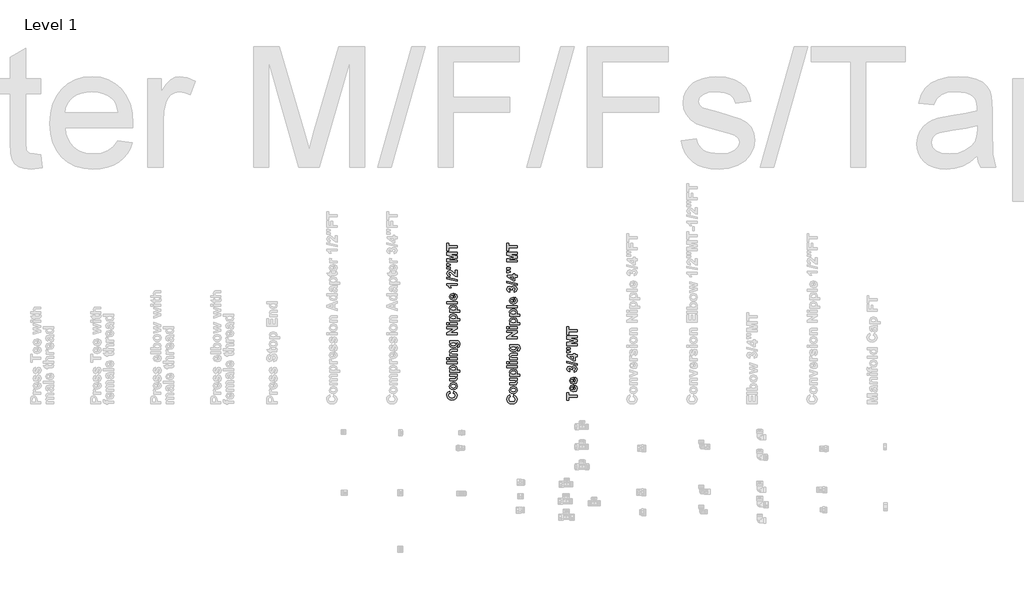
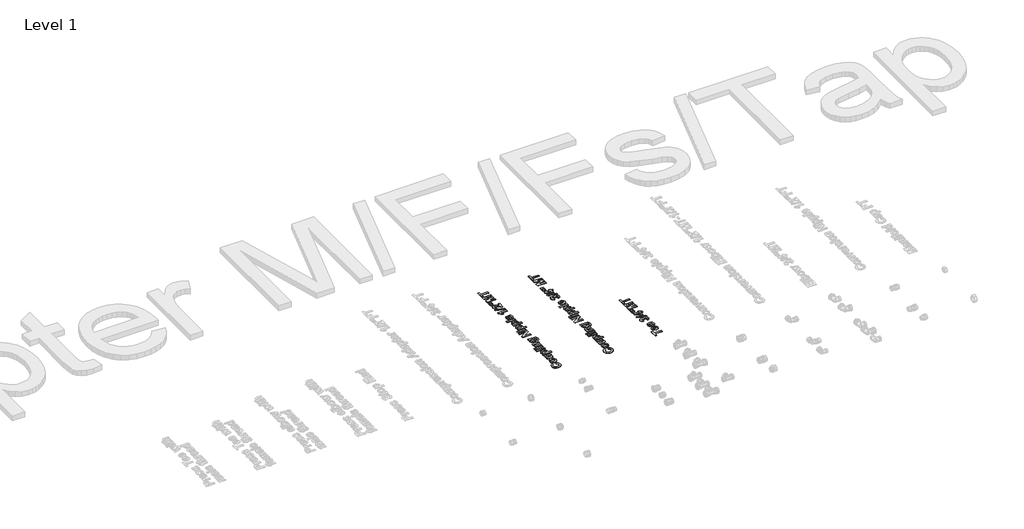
# One storey, part 55 of 58: 3 proxies.
"""IFC4 building model written with IfcOpenShell, lengths in millimetres."""

import ifcopenshell
import ifcopenshell.guid

model = None  # the IFC model being written
_history = None  # IfcOwnerHistory: only IFC2X3 demands one
_inside = {}  # id of a spatial element -> (the spatial element, [elements in it])
_under = {}  # id of a project, library or spatial element -> (it, [spatial elements below it])
_declared = {}  # id of a project -> (the project, [libraries it declares])
_typed = {}  # id of a type object -> (the type object, [elements of that type])
_made_of = {}  # id of a material, layer set ... -> (it, [elements and type objects made of it])


def new_model(schema):
    """Start an empty IFC model of exactly this schema.

    Asked for "IFC4X3", IfcOpenShell would pick the latest addendum, in which some entities
    have other attributes; the version numbers below select the first issue.
    IFC2X3 requires an IfcOwnerHistory on every rooted entity: one is made here for all.
    """
    global model, _history
    if schema == "IFC4X3":
        model = ifcopenshell.file(schema_version=(4, 3, 0, 0))
    else:
        model = ifcopenshell.file(schema=schema)
    _inside.clear()
    _under.clear()
    _declared.clear()
    _typed.clear()
    _made_of.clear()
    _history = None
    if model.schema == "IFC2X3":
        org = make("IfcOrganization", Name="unknown")
        user = make(
            "IfcPersonAndOrganization",
            ThePerson=make("IfcPerson", FamilyName="unknown"),
            TheOrganization=org,
        )
        app = make(
            "IfcApplication",
            ApplicationDeveloper=org,
            Version="unknown",
            ApplicationFullName="unknown",
            ApplicationIdentifier="unknown",
        )
        _history = make(
            "IfcOwnerHistory",
            OwningUser=user,
            OwningApplication=app,
            ChangeAction="ADDED",
            CreationDate=0,
        )
    return model


def make(cls, **values):
    """One entity of the class cls with the attributes given. An attribute that is None is left unset."""
    return model.create_entity(
        cls, **{name: value for name, value in values.items() if value is not None}
    )


def rooted(cls, **values):
    """An entity with a GlobalId (a new one), such as an element, a storey or a relation."""
    return make(cls, GlobalId=ifcopenshell.guid.new(), OwnerHistory=_history, **values)


def si_unit(unit_type, name, prefix=None):
    """IfcSIUnit, for example si_unit("LENGTHUNIT", "METRE", prefix="MILLI")."""
    return make("IfcSIUnit", UnitType=unit_type, Prefix=prefix, Name=name)


def assignment(units):
    """IfcUnitAssignment: the units of a project."""
    return None if units is None else make("IfcUnitAssignment", Units=units)


def point(xyz):
    """IfcCartesianPoint."""
    return None if xyz is None else make("IfcCartesianPoint", Coordinates=xyz)


def direction(xyz):
    """IfcDirection."""
    return None if xyz is None else make("IfcDirection", DirectionRatios=xyz)


def frame(location, z_axis=None, x_axis=None):
    """IfcAxis2Placement3D, a coordinate frame: its origin and axes. An axis left out is left unset."""
    return make(
        "IfcAxis2Placement3D",
        Location=point(location),
        Axis=direction(z_axis),
        RefDirection=direction(x_axis),
    )


def origin():
    """The frame at (0, 0, 0) with its axes left unset."""
    return frame((0.0, 0.0, 0.0))


def place(relative_to, where):
    """IfcLocalPlacement: puts the frame where relative to a parent placement (None: the world)."""
    return make(
        "IfcLocalPlacement", PlacementRelTo=relative_to, RelativePlacement=where
    )


def context(
    kind, dimensions, precision=None, world=None, true_north=None, identifier=None
):
    """IfcGeometricRepresentationContext, for example the 3D "Model" context."""
    return make(
        "IfcGeometricRepresentationContext",
        ContextIdentifier=identifier,
        ContextType=kind,
        CoordinateSpaceDimension=dimensions,
        Precision=precision,
        WorldCoordinateSystem=world,
        TrueNorth=true_north,
    )


def project(units=None, contexts=None):
    """IfcProject with its units and contexts."""
    return rooted(
        "IfcProject",
        Name="project",
        RepresentationContexts=contexts,
        UnitsInContext=assignment(units),
    )


def spatial(cls, under=None, at=None, **own):
    """A site, building, storey or space (cls), placed at a placement, below another one or the project."""
    s = rooted(cls, ObjectPlacement=at, **own)
    if under is not None:
        _under.setdefault(under.id(), (under, []))[1].append(s)
    return s


def polyline(points):
    """IfcPolyline through the points."""
    return make("IfcPolyline", Points=[point(p) for p in points])


def outline(outer, holes=None, kind="AREA"):
    """IfcArbitraryClosedProfileDef: a profile drawn as a closed curve; with holes, ...WithVoids."""
    if holes is None:
        return make("IfcArbitraryClosedProfileDef", ProfileType=kind, OuterCurve=outer)
    return make(
        "IfcArbitraryProfileDefWithVoids",
        ProfileType=kind,
        OuterCurve=outer,
        InnerCurves=holes,
    )


def extrude(swept, where, along, depth):
    """IfcExtrudedAreaSolid: the profile swept, set in the frame where, extruded along a direction by depth."""
    return make(
        "IfcExtrudedAreaSolid",
        SweptArea=swept,
        Position=where,
        ExtrudedDirection=direction(along),
        Depth=depth,
    )


def shape(context_of_items, identifier, shape_type, items):
    """IfcShapeRepresentation: the items that make up one representation, for example the "Body"."""
    return make(
        "IfcShapeRepresentation",
        ContextOfItems=context_of_items,
        RepresentationIdentifier=identifier,
        RepresentationType=shape_type,
        Items=items,
    )


def made_of(thing, what):
    """Note that an element or type object is made of a material, layer set ...; save() writes the relation."""
    if what is not None:
        _made_of.setdefault(what.id(), (what, []))[1].append(thing)
    return thing


def element(
    cls,
    number,
    at=None,
    inside=None,
    cuts=None,
    type_object=None,
    material=None,
    context=None,
    identifier="Body",
    shape_type=None,
    held_by="IfcProductDefinitionShape",
    body=None,
    shapes=None,
    **own,
):
    """One element of the class cls, such as IfcWall. Its Tag is "e" and its number.

    at: its placement. inside: the storey or other place that contains it. cuts: it is an
    opening in that element (IfcRelVoidsElement). A single representation is given by context,
    identifier, shape_type and body (its items); several are given by shapes. held_by: the class
    of the entity that holds the representations. save() writes the other relations.
    """
    e = rooted(cls, Tag="e%d" % number, ObjectPlacement=at, **own)
    if body is not None:
        shapes = [shape(context, identifier, shape_type, body)]
    if shapes is not None:
        e.Representation = make(held_by, Representations=shapes)
    if inside is not None:
        _inside.setdefault(inside.id(), (inside, []))[1].append(e)
    if cuts is not None:
        rooted(
            "IfcRelVoidsElement", RelatingBuildingElement=cuts, RelatedOpeningElement=e
        )
    if type_object is not None:
        _typed.setdefault(type_object.id(), (type_object, []))[1].append(e)
    return made_of(e, material)


def aggregate(whole, parts):
    """IfcRelAggregates: a whole, such as a stair, and the parts it consists of."""
    return rooted("IfcRelAggregates", RelatingObject=whole, RelatedObjects=parts)


def save(model, path):
    """Write the relations noted so far, then the file.

    IfcRelAggregates (storeys below a building ...), IfcRelContainedInSpatialStructure (elements
    in a storey), IfcRelDefinesByType, IfcRelAssociatesMaterial and IfcRelDeclares: one each for
    every whole, place, type object, material and project.
    """
    for whole, parts in _under.values():
        aggregate(whole, parts)
    for where, things in _inside.values():
        rooted(
            "IfcRelContainedInSpatialStructure",
            RelatedElements=things,
            RelatingStructure=where,
        )
    for kind, things in _typed.values():
        rooted("IfcRelDefinesByType", RelatedObjects=things, RelatingType=kind)
    for what, things in _made_of.values():
        rooted("IfcRelAssociatesMaterial", RelatedObjects=things, RelatingMaterial=what)
    for by, libraries in _declared.values():
        rooted("IfcRelDeclares", RelatingContext=by, RelatedDefinitions=libraries)
    model.write(path)


model = new_model("IFC4")

# Units and contexts
model_context = context("Model", 3, world=origin())
ifc_project = project(units=[si_unit("LENGTHUNIT", "METRE", prefix="MILLI")], contexts=[model_context])

# Site, building, storey
site = spatial("IfcSite", under=ifc_project)
building = spatial("IfcBuilding", under=site)
storey = spatial("IfcBuildingStorey", under=building, Name="Level 1", Elevation=27.3876384)

# Proxies
placement = place(None, origin())
element("IfcBuildingElementProxy", 1, Name="50mm Arial", ObjectType="50mm Arial", at=placement, inside=storey, context=model_context, shape_type="SweptSolid", body=[
    extrude(outline(polyline([(32999.7082138, 30458.8083975), (33002.9471325, 30468.5251537), (33015.1500119, 30460.8706778), (33019.1417262, 30447.2824016), (33017.4368656, 30438.0053033), (33012.322284, 30430.5437708), (33004.2502912, 30425.6284586), (32993.6731973, 30423.9900212), (32982.5583922, 30425.6426921), (32974.2396849, 30430.6007049), (32969.0491911, 30438.2535993), (32967.3190265, 30447.990915), (32968.7455425, 30456.5183807), (32973.0250904, 30463.2745628), (32982.7038905, 30468.5251537), (32984.3233498, 30458.8083975), (32978.3958755, 30454.7787271), (32976.226053, 30447.3203576), (32980.1671592, 30437.4834072), (32992.9267277, 30433.7067773), (33006.2619634, 30437.369539), (33010.2346997, 30446.9028408), (33007.6979684, 30454.3359062), (32999.7082138, 30458.8083975)])), frame((0.0, 0.0, 27.3876384), z_axis=(0.0, 0.0, 1.0), x_axis=(1.0, 0.0, 0.0)), (0.0, 0.0, 1.0), 2.0),
    extrude(outline(polyline([(32999.9865584, 30474.1932615), (32990.5038647, 30476.5908205), (32983.5009681, 30483.3786326), (32981.0844311, 30493.1839529), (32986.5627585, 30506.9050754), (33000.4167273, 30512.2505566), (33014.4035423, 30506.8481413), (33019.9514559, 30493.2598651), (33017.6424611, 30483.587391), (33010.867301, 30476.5908205), (32999.9865584, 30474.1932615)]), holes=[polyline([(33000.5179435, 30483.9100177), (33009.5325122, 30486.5985733), (33012.6638887, 30493.234561), (33009.5325122, 30499.8578968), (33000.4420313, 30502.5338004), (32991.5033747, 30499.8578968), (32988.3719982, 30493.234561), (32991.5033747, 30486.5985733), (33000.5179435, 30483.9100177)])]), frame((0.0, 0.0, 27.3876384), z_axis=(0.0, 0.0, 1.0), x_axis=(1.0, 0.0, 0.0)), (0.0, 0.0, 1.0), 2.0),
    extrude(outline(polyline([(33019.1417262, 30543.0202845), (33013.6760508, 30543.0202845), (33018.2750624, 30537.9404959), (33019.9514559, 30531.2918561), (33018.3066924, 30524.9025828), (33013.6823768, 30520.8033263), (33005.4395817, 30519.5381237), (32981.8941608, 30519.5381237), (32981.8941608, 30529.2548799), (32999.1135686, 30529.2548799), (33008.7986947, 30529.779939), (33011.6200965, 30531.703047), (33012.6638887, 30535.2519403), (33011.2721658, 30539.6485195), (33007.8118366, 30542.305445), (32997.6965416, 30543.0202845), (32981.8941608, 30543.0202845), (32981.8941608, 30552.7370407), (33019.1417262, 30552.7370407), (33019.1417262, 30543.0202845)])), frame((0.0, 0.0, 27.3876384), z_axis=(0.0, 0.0, 1.0), x_axis=(1.0, 0.0, 0.0)), (0.0, 0.0, 1.0), 2.0),
    extrude(outline(polyline([(32981.8941608, 30562.4537969), (32981.8941608, 30572.1705531), (32987.2586199, 30572.1705531), (32982.7924546, 30576.7885427), (32981.0844311, 30583.2537281), (32986.1642197, 30593.7612359), (33000.302859, 30598.0819029), (33014.7894291, 30593.6220636), (33019.9514559, 30582.8109072), (33018.7495134, 30577.3325798), (33014.6249528, 30572.1705531), (33032.9071308, 30572.1705531), (33032.9071308, 30562.4537969), (32981.8941608, 30562.4537969)]), holes=[polyline([(32999.8726901, 30572.1705531), (33009.5388382, 30574.6060681), (33012.6638887, 30580.5461945), (33009.7982048, 30586.1320641), (33000.3914232, 30588.3651467), (32991.3325724, 30586.0688039), (32988.3719982, 30580.3690661), (32991.2756383, 30574.5048519), (32999.8726901, 30572.1705531)])]), frame((0.0, 0.0, 27.3876384), z_axis=(0.0, 0.0, 1.0), x_axis=(1.0, 0.0, 0.0)), (0.0, 0.0, 1.0), 2.0),
    extrude(outline(polyline([(33019.1417262, 30605.36947), (32968.1287562, 30605.36947), (32968.1287562, 30615.0862262), (33019.1417262, 30615.0862262), (33019.1417262, 30605.36947)])), frame((0.0, 0.0, 27.3876384), z_axis=(0.0, 0.0, 1.0), x_axis=(1.0, 0.0, 0.0)), (0.0, 0.0, 1.0), 2.0),
    extrude(outline(polyline([(32977.0357827, 30624.8029824), (32968.1287562, 30624.8029824), (32968.1287562, 30634.5197386), (32977.0357827, 30634.5197386), (32977.0357827, 30624.8029824)])), frame((0.0, 0.0, 27.3876384), z_axis=(0.0, 0.0, 1.0), x_axis=(1.0, 0.0, 0.0)), (0.0, 0.0, 1.0), 2.0),
    extrude(outline(polyline([(33019.1417262, 30624.8029824), (32981.8941608, 30624.8029824), (32981.8941608, 30634.5197386), (33019.1417262, 30634.5197386), (33019.1417262, 30624.8029824)])), frame((0.0, 0.0, 27.3876384), z_axis=(0.0, 0.0, 1.0), x_axis=(1.0, 0.0, 0.0)), (0.0, 0.0, 1.0), 2.0),
    extrude(outline(polyline([(33019.1417262, 30677.4354118), (33019.1417262, 30667.7186556), (32999.9992104, 30667.7186556), (32992.1296501, 30667.1113583), (32989.3588563, 30665.1249902), (32988.3719982, 30661.8228113), (32989.7826992, 30657.3756241), (32993.527699, 30654.6807425), (33002.1500549, 30653.953251), (33019.1417262, 30653.953251), (33019.1417262, 30644.2364948), (32981.8941608, 30644.2364948), (32981.8941608, 30653.953251), (32987.2586199, 30653.953251), (32982.6279783, 30659.1690488), (32981.0844311, 30665.5804631), (32982.2610695, 30671.2232669), (32985.2595998, 30675.0947869), (32989.3904864, 30676.9230047), (32996.0138221, 30677.4354118), (33019.1417262, 30677.4354118)])), frame((0.0, 0.0, 27.3876384), z_axis=(0.0, 0.0, 1.0), x_axis=(1.0, 0.0, 0.0)), (0.0, 0.0, 1.0), 2.0),
    extrude(outline(polyline([(33022.1402564, 30686.3234603), (33023.1903746, 30697.6786538), (33025.5183474, 30698.8805963), (33026.4292933, 30702.9925049), (33025.2779589, 30708.3822681), (33022.7855097, 30710.2041599), (33018.2560843, 30710.6343288), (33012.8283651, 30710.6343288), (33019.1417262, 30699.3866774), (33017.5570599, 30692.949959), (33012.803061, 30688.0125058), (33000.3281631, 30684.7229789), (32986.0250474, 30689.0309939), (32981.0844311, 30699.7535862), (32986.9423193, 30710.6343288), (32981.8941608, 30710.6343288), (32981.8941608, 30720.351085), (33014.9792095, 30720.351085), (33024.7275958, 30719.2946408), (33029.7947323, 30716.3340666), (33032.6730683, 30711.247952), (33033.7168605, 30703.1949373), (33030.604462, 30690.1506982), (33022.1402564, 30686.3234603)]), holes=[polyline([(32999.9612543, 30694.4397351), (33008.9948011, 30696.6854698), (33011.854159, 30702.2333833), (33008.9188889, 30708.1988137), (33000.2269469, 30710.6343288), (32991.2882903, 30708.3000299), (32988.3719982, 30702.3978597), (32991.2313562, 30696.6854698), (32999.9612543, 30694.4397351)])]), frame((0.0, 0.0, 27.3876384), z_axis=(0.0, 0.0, 1.0), x_axis=(1.0, 0.0, 0.0)), (0.0, 0.0, 1.0), 2.0),
    extrude(outline(polyline([(33019.1417262, 30749.5013535), (32968.1287562, 30749.5013535), (32968.1287562, 30759.6862347), (33002.4663555, 30781.0808111), (32968.1287562, 30781.0808111), (32968.1287562, 30790.7975673), (33019.1417262, 30790.7975673), (33019.1417262, 30780.2963855), (32985.3102079, 30759.2181097), (33019.1417262, 30759.2181097), (33019.1417262, 30749.5013535)])), frame((0.0, 0.0, 27.3876384), z_axis=(0.0, 0.0, 1.0), x_axis=(1.0, 0.0, 0.0)), (0.0, 0.0, 1.0), 2.0),
    extrude(outline(polyline([(33019.1417262, 30800.5143235), (32981.8941608, 30800.5143235), (32981.8941608, 30810.2310797), (33019.1417262, 30810.2310797), (33019.1417262, 30800.5143235)])), frame((0.0, 0.0, 27.3876384), z_axis=(0.0, 0.0, 1.0), x_axis=(1.0, 0.0, 0.0)), (0.0, 0.0, 1.0), 2.0),
    extrude(outline(polyline([(32977.0357827, 30800.5143235), (32968.1287562, 30800.5143235), (32968.1287562, 30810.2310797), (32977.0357827, 30810.2310797), (32977.0357827, 30800.5143235)])), frame((0.0, 0.0, 27.3876384), z_axis=(0.0, 0.0, 1.0), x_axis=(1.0, 0.0, 0.0)), (0.0, 0.0, 1.0), 2.0),
    extrude(outline(polyline([(32981.8941608, 30819.9478359), (32981.8941608, 30829.6645921), (32987.2586199, 30829.6645921), (32982.7924546, 30834.2825817), (32981.0844311, 30840.7477671), (32986.1642197, 30851.255275), (33000.302859, 30855.5759419), (33014.7894291, 30851.1161027), (33019.9514559, 30840.3049462), (33018.7495134, 30834.8266188), (33014.6249528, 30829.6645921), (33032.9071308, 30829.6645921), (33032.9071308, 30819.9478359), (32981.8941608, 30819.9478359)]), holes=[polyline([(32999.8726901, 30829.6645921), (33009.5388382, 30832.1001072), (33012.6638887, 30838.0402335), (33009.7982048, 30843.6261031), (33000.3914232, 30845.8591857), (32991.3325724, 30843.562843), (32988.3719982, 30837.8631051), (32991.2756383, 30831.9988909), (32999.8726901, 30829.6645921)])]), frame((0.0, 0.0, 27.3876384), z_axis=(0.0, 0.0, 1.0), x_axis=(1.0, 0.0, 0.0)), (0.0, 0.0, 1.0), 2.0),
    extrude(outline(polyline([(32981.8941608, 30862.8635091), (32981.8941608, 30872.5802653), (32987.2586199, 30872.5802653), (32982.7924546, 30877.1982549), (32981.0844311, 30883.6634403), (32986.1642197, 30894.1709481), (33000.302859, 30898.4916151), (33014.7894291, 30894.0317758), (33019.9514559, 30883.2206194), (33018.7495134, 30877.742292), (33014.6249528, 30872.5802653), (33032.9071308, 30872.5802653), (33032.9071308, 30862.8635091), (32981.8941608, 30862.8635091)]), holes=[polyline([(32999.8726901, 30872.5802653), (33009.5388382, 30875.0157803), (33012.6638887, 30880.9559067), (33009.7982048, 30886.5417763), (33000.3914232, 30888.7748589), (32991.3325724, 30886.4785161), (32988.3719982, 30880.7787783), (32991.2756383, 30874.9145641), (32999.8726901, 30872.5802653)])]), frame((0.0, 0.0, 27.3876384), z_axis=(0.0, 0.0, 1.0), x_axis=(1.0, 0.0, 0.0)), (0.0, 0.0, 1.0), 2.0),
    extrude(outline(polyline([(33019.1417262, 30905.7791822), (32968.1287562, 30905.7791822), (32968.1287562, 30915.4959384), (33019.1417262, 30915.4959384), (33019.1417262, 30905.7791822)])), frame((0.0, 0.0, 27.3876384), z_axis=(0.0, 0.0, 1.0), x_axis=(1.0, 0.0, 0.0)), (0.0, 0.0, 1.0), 2.0),
    extrude(outline(polyline([(33007.8055106, 30946.2656664), (33009.42497, 30955.9824226), (33017.2629003, 30950.1877945), (33019.9514559, 30940.2812579), (33018.3667896, 30932.0922339), (33013.6127907, 30926.351377), (33000.7962881, 30922.7835056), (32986.32237, 30927.5153634), (32981.0844311, 30939.4841803), (32986.4615423, 30952.3006829), (33002.9471325, 30956.7921522), (33002.9471325, 30932.5002618), (33010.1081794, 30934.7902785), (33012.6638887, 30940.2433019), (33011.5125543, 30943.9756496), (33007.8055106, 30946.2656664)]), holes=[polyline([(32997.2790248, 30947.0753961), (32990.643037, 30944.9118996), (32988.3719982, 30939.9016972), (32990.7632312, 30934.6890623), (32997.2790248, 30932.6647381), (32997.2790248, 30947.0753961)])]), frame((0.0, 0.0, 27.3876384), z_axis=(0.0, 0.0, 1.0), x_axis=(1.0, 0.0, 0.0)), (0.0, 0.0, 1.0), 2.0),
    extrude(outline(polyline([(33019.1417262, 31006.1856629), (33019.1417262, 30996.4689067), (32982.6785864, 30996.4689067), (32990.8011873, 30984.3229615), (32981.0844311, 30984.3229615), (32976.3209432, 30992.4329103), (32968.1287562, 30998.4426228), (32968.1287562, 31006.1856629), (33019.1417262, 31006.1856629)])), frame((0.0, 0.0, 27.3876384), z_axis=(0.0, 0.0, 1.0), x_axis=(1.0, 0.0, 0.0)), (0.0, 0.0, 1.0), 2.0),
    extrude(outline(polyline([(33019.1417262, 31017.3447501), (32968.1287562, 31029.4906953), (32968.1287562, 31036.9553908), (33019.1417262, 31024.8094456), (33019.1417262, 31017.3447501)])), frame((0.0, 0.0, 27.3876384), z_axis=(0.0, 0.0, 1.0), x_axis=(1.0, 0.0, 0.0)), (0.0, 0.0, 1.0), 2.0),
    extrude(outline(polyline([(33009.42497, 31072.5834968), (33019.1417262, 31072.5834968), (33019.1417262, 31040.1943095), (33009.6084244, 31043.294056), (32997.6585855, 31053.4789371), (32989.5106806, 31060.9942408), (32983.6654445, 31062.8667407), (32978.7501323, 31061.2915634), (32977.0357827, 31056.9455924), (32978.7248282, 31052.5932953), (32984.3233498, 31050.7207954), (32983.437708, 31041.0040392), (32971.6903016, 31046.2166741), (32968.1287562, 31057.1606768), (32972.1204705, 31068.4715883), (32982.0459851, 31072.5834968), (32988.4732145, 31071.4574665), (32994.8624877, 31067.8895951), (33001.239109, 31061.8482525), (33006.7680445, 31056.300339), (33009.42497, 31054.4784472), (33009.42497, 31072.5834968)])), frame((0.0, 0.0, 27.3876384), z_axis=(0.0, 0.0, 1.0), x_axis=(1.0, 0.0, 0.0)), (0.0, 0.0, 1.0), 2.0),
    extrude(outline(polyline([(32985.9428092, 31096.9386475), (32976.6056138, 31095.255928), (32968.1287562, 31095.255928), (32968.1287562, 31104.9726841), (32976.6056138, 31104.9726841), (32985.9428092, 31103.5177011), (32985.9428092, 31096.9386475)])), frame((0.0, 0.0, 27.3876384), z_axis=(0.0, 0.0, 1.0), x_axis=(1.0, 0.0, 0.0)), (0.0, 0.0, 1.0), 2.0),
    extrude(outline(polyline([(32985.9428092, 31080.7440538), (32976.6056138, 31079.0613343), (32968.1287562, 31079.0613343), (32968.1287562, 31088.7780905), (32976.6056138, 31088.7780905), (32985.9428092, 31087.3231075), (32985.9428092, 31080.7440538)])), frame((0.0, 0.0, 27.3876384), z_axis=(0.0, 0.0, 1.0), x_axis=(1.0, 0.0, 0.0)), (0.0, 0.0, 1.0), 2.0),
    extrude(outline(polyline([(33019.1417262, 31113.8797107), (32968.1287562, 31113.8797107), (32968.1287562, 31130.5297772), (33002.9218285, 31138.576466), (32968.1287562, 31146.6231547), (32968.1287562, 31163.2732213), (33019.1417262, 31163.2732213), (33019.1417262, 31153.5564651), (32978.9841947, 31153.1516003), (33019.1417262, 31144.2698778), (33019.1417262, 31132.8957062), (32978.9841947, 31124.0013317), (33019.1417262, 31123.5964668), (33019.1417262, 31113.8797107)])), frame((0.0, 0.0, 27.3876384), z_axis=(0.0, 0.0, 1.0), x_axis=(1.0, 0.0, 0.0)), (0.0, 0.0, 1.0), 2.0),
    extrude(outline(polyline([(33019.1417262, 31184.326193), (32977.0357827, 31184.326193), (32977.0357827, 31169.7510587), (32968.1287562, 31169.7510587), (32968.1287562, 31208.6180835), (32977.0357827, 31208.6180835), (32977.0357827, 31194.0429492), (33019.1417262, 31194.0429492), (33019.1417262, 31184.326193)])), frame((0.0, 0.0, 27.3876384), z_axis=(0.0, 0.0, 1.0), x_axis=(1.0, 0.0, 0.0)), (0.0, 0.0, 1.0), 2.0),
])
element("IfcBuildingElementProxy", 2, Name="50mm Arial", ObjectType="50mm Arial", at=placement, inside=storey, context=model_context, shape_type="SweptSolid", body=[
    extrude(outline(polyline([(33299.7082138, 30439.3748851), (33302.9471325, 30449.0916413), (33315.1500119, 30441.4371654), (33319.1417262, 30427.8488892), (33317.4368656, 30418.5717909), (33312.322284, 30411.1102584), (33304.2502912, 30406.1949462), (33293.6731973, 30404.5565088), (33282.5583922, 30406.2091797), (33274.2396849, 30411.1671925), (33269.0491911, 30418.8200869), (33267.3190265, 30428.5574026), (33268.7455425, 30437.0848684), (33273.0250904, 30443.8410504), (33282.7038905, 30449.0916413), (33284.3233498, 30439.3748851), (33278.3958755, 30435.3452148), (33276.226053, 30427.8868453), (33280.1671592, 30418.0498948), (33292.9267277, 30414.273265), (33306.2619634, 30417.9360266), (33310.2346997, 30427.4693284), (33307.6979684, 30434.9023938), (33299.7082138, 30439.3748851)])), frame((0.0, 0.0, 27.3876384), z_axis=(0.0, 0.0, 1.0), x_axis=(1.0, 0.0, 0.0)), (0.0, 0.0, 1.0), 2.0),
    extrude(outline(polyline([(33299.9865584, 30454.7597491), (33290.5038647, 30457.1573081), (33283.5009681, 30463.9451202), (33281.0844311, 30473.7504406), (33286.5627585, 30487.4715631), (33300.4167273, 30492.8170442), (33314.4035423, 30487.4146289), (33319.9514559, 30473.8263527), (33317.6424611, 30464.1538786), (33310.867301, 30457.1573081), (33299.9865584, 30454.7597491)]), holes=[polyline([(33300.5179435, 30464.4765053), (33309.5325122, 30467.1650609), (33312.6638887, 30473.8010487), (33309.5325122, 30480.4243844), (33300.4420313, 30483.100288), (33291.5033747, 30480.4243844), (33288.3719982, 30473.8010487), (33291.5033747, 30467.1650609), (33300.5179435, 30464.4765053)])]), frame((0.0, 0.0, 27.3876384), z_axis=(0.0, 0.0, 1.0), x_axis=(1.0, 0.0, 0.0)), (0.0, 0.0, 1.0), 2.0),
    extrude(outline(polyline([(33319.1417262, 30523.5867721), (33313.6760508, 30523.5867721), (33318.2750624, 30518.5069836), (33319.9514559, 30511.8583437), (33318.3066924, 30505.4690705), (33313.6823768, 30501.3698139), (33305.4395817, 30500.1046113), (33281.8941608, 30500.1046113), (33281.8941608, 30509.8213675), (33299.1135686, 30509.8213675), (33308.7986947, 30510.3464266), (33311.6200965, 30512.2695346), (33312.6638887, 30515.818428), (33311.2721658, 30520.2150071), (33307.8118366, 30522.8719326), (33297.6965416, 30523.5867721), (33281.8941608, 30523.5867721), (33281.8941608, 30533.3035283), (33319.1417262, 30533.3035283), (33319.1417262, 30523.5867721)])), frame((0.0, 0.0, 27.3876384), z_axis=(0.0, 0.0, 1.0), x_axis=(1.0, 0.0, 0.0)), (0.0, 0.0, 1.0), 2.0),
    extrude(outline(polyline([(33281.8941608, 30543.0202845), (33281.8941608, 30552.7370407), (33287.2586199, 30552.7370407), (33282.7924546, 30557.3550303), (33281.0844311, 30563.8202157), (33286.1642197, 30574.3277235), (33300.302859, 30578.6483905), (33314.7894291, 30574.1885513), (33319.9514559, 30563.3773948), (33318.7495134, 30557.8990674), (33314.6249528, 30552.7370407), (33332.9071308, 30552.7370407), (33332.9071308, 30543.0202845), (33281.8941608, 30543.0202845)]), holes=[polyline([(33299.8726901, 30552.7370407), (33309.5388382, 30555.1725557), (33312.6638887, 30561.1126821), (33309.7982048, 30566.6985517), (33300.3914232, 30568.9316343), (33291.3325724, 30566.6352916), (33288.3719982, 30560.9355537), (33291.2756383, 30555.0713395), (33299.8726901, 30552.7370407)])]), frame((0.0, 0.0, 27.3876384), z_axis=(0.0, 0.0, 1.0), x_axis=(1.0, 0.0, 0.0)), (0.0, 0.0, 1.0), 2.0),
    extrude(outline(polyline([(33319.1417262, 30585.9359577), (33268.1287562, 30585.9359577), (33268.1287562, 30595.6527138), (33319.1417262, 30595.6527138), (33319.1417262, 30585.9359577)])), frame((0.0, 0.0, 27.3876384), z_axis=(0.0, 0.0, 1.0), x_axis=(1.0, 0.0, 0.0)), (0.0, 0.0, 1.0), 2.0),
    extrude(outline(polyline([(33277.0357827, 30605.36947), (33268.1287562, 30605.36947), (33268.1287562, 30615.0862262), (33277.0357827, 30615.0862262), (33277.0357827, 30605.36947)])), frame((0.0, 0.0, 27.3876384), z_axis=(0.0, 0.0, 1.0), x_axis=(1.0, 0.0, 0.0)), (0.0, 0.0, 1.0), 2.0),
    extrude(outline(polyline([(33319.1417262, 30605.36947), (33281.8941608, 30605.36947), (33281.8941608, 30615.0862262), (33319.1417262, 30615.0862262), (33319.1417262, 30605.36947)])), frame((0.0, 0.0, 27.3876384), z_axis=(0.0, 0.0, 1.0), x_axis=(1.0, 0.0, 0.0)), (0.0, 0.0, 1.0), 2.0),
    extrude(outline(polyline([(33319.1417262, 30658.0018994), (33319.1417262, 30648.2851432), (33299.9992104, 30648.2851432), (33292.1296501, 30647.677846), (33289.3588563, 30645.6914778), (33288.3719982, 30642.389299), (33289.7826992, 30637.9421117), (33293.527699, 30635.2472301), (33302.1500549, 30634.5197386), (33319.1417262, 30634.5197386), (33319.1417262, 30624.8029824), (33281.8941608, 30624.8029824), (33281.8941608, 30634.5197386), (33287.2586199, 30634.5197386), (33282.6279783, 30639.7355364), (33281.0844311, 30646.1469508), (33282.2610695, 30651.7897545), (33285.2595998, 30655.6612745), (33289.3904864, 30657.4894923), (33296.0138221, 30658.0018994), (33319.1417262, 30658.0018994)])), frame((0.0, 0.0, 27.3876384), z_axis=(0.0, 0.0, 1.0), x_axis=(1.0, 0.0, 0.0)), (0.0, 0.0, 1.0), 2.0),
    extrude(outline(polyline([(33322.1402564, 30666.8899479), (33323.1903746, 30678.2451415), (33325.5183474, 30679.447084), (33326.4292933, 30683.5589925), (33325.2779589, 30688.9487557), (33322.7855097, 30690.7706475), (33318.2560843, 30691.2008164), (33312.8283651, 30691.2008164), (33319.1417262, 30679.953165), (33317.5570599, 30673.5164466), (33312.803061, 30668.5789934), (33300.3281631, 30665.2894665), (33286.0250474, 30669.5974815), (33281.0844311, 30680.3200738), (33286.9423193, 30691.2008164), (33281.8941608, 30691.2008164), (33281.8941608, 30700.9175726), (33314.9792095, 30700.9175726), (33324.7275958, 30699.8611284), (33329.7947323, 30696.9005542), (33332.6730683, 30691.8144397), (33333.7168605, 30683.7614249), (33330.604462, 30670.7171858), (33322.1402564, 30666.8899479)]), holes=[polyline([(33299.9612543, 30675.0062227), (33308.9948011, 30677.2519574), (33311.854159, 30682.7998709), (33308.9188889, 30688.7653013), (33300.2269469, 30691.2008164), (33291.2882903, 30688.8665175), (33288.3719982, 30682.9643473), (33291.2313562, 30677.2519574), (33299.9612543, 30675.0062227)])]), frame((0.0, 0.0, 27.3876384), z_axis=(0.0, 0.0, 1.0), x_axis=(1.0, 0.0, 0.0)), (0.0, 0.0, 1.0), 2.0),
    extrude(outline(polyline([(33319.1417262, 30730.0678411), (33268.1287562, 30730.0678411), (33268.1287562, 30740.2527223), (33302.4663555, 30761.6472988), (33268.1287562, 30761.6472988), (33268.1287562, 30771.364055), (33319.1417262, 30771.364055), (33319.1417262, 30760.8628731), (33285.3102079, 30739.7845973), (33319.1417262, 30739.7845973), (33319.1417262, 30730.0678411)])), frame((0.0, 0.0, 27.3876384), z_axis=(0.0, 0.0, 1.0), x_axis=(1.0, 0.0, 0.0)), (0.0, 0.0, 1.0), 2.0),
    extrude(outline(polyline([(33319.1417262, 30781.0808111), (33281.8941608, 30781.0808111), (33281.8941608, 30790.7975673), (33319.1417262, 30790.7975673), (33319.1417262, 30781.0808111)])), frame((0.0, 0.0, 27.3876384), z_axis=(0.0, 0.0, 1.0), x_axis=(1.0, 0.0, 0.0)), (0.0, 0.0, 1.0), 2.0),
    extrude(outline(polyline([(33277.0357827, 30781.0808111), (33268.1287562, 30781.0808111), (33268.1287562, 30790.7975673), (33277.0357827, 30790.7975673), (33277.0357827, 30781.0808111)])), frame((0.0, 0.0, 27.3876384), z_axis=(0.0, 0.0, 1.0), x_axis=(1.0, 0.0, 0.0)), (0.0, 0.0, 1.0), 2.0),
    extrude(outline(polyline([(33281.8941608, 30800.5143235), (33281.8941608, 30810.2310797), (33287.2586199, 30810.2310797), (33282.7924546, 30814.8490693), (33281.0844311, 30821.3142547), (33286.1642197, 30831.8217626), (33300.302859, 30836.1424296), (33314.7894291, 30831.6825903), (33319.9514559, 30820.8714338), (33318.7495134, 30815.3931064), (33314.6249528, 30810.2310797), (33332.9071308, 30810.2310797), (33332.9071308, 30800.5143235), (33281.8941608, 30800.5143235)]), holes=[polyline([(33299.8726901, 30810.2310797), (33309.5388382, 30812.6665948), (33312.6638887, 30818.6067211), (33309.7982048, 30824.1925907), (33300.3914232, 30826.4256734), (33291.3325724, 30824.1293306), (33288.3719982, 30818.4295927), (33291.2756383, 30812.5653786), (33299.8726901, 30810.2310797)])]), frame((0.0, 0.0, 27.3876384), z_axis=(0.0, 0.0, 1.0), x_axis=(1.0, 0.0, 0.0)), (0.0, 0.0, 1.0), 2.0),
    extrude(outline(polyline([(33281.8941608, 30843.4299967), (33281.8941608, 30853.1467529), (33287.2586199, 30853.1467529), (33282.7924546, 30857.7647425), (33281.0844311, 30864.2299279), (33286.1642197, 30874.7374357), (33300.302859, 30879.0581027), (33314.7894291, 30874.5982635), (33319.9514559, 30863.787107), (33318.7495134, 30858.3087796), (33314.6249528, 30853.1467529), (33332.9071308, 30853.1467529), (33332.9071308, 30843.4299967), (33281.8941608, 30843.4299967)]), holes=[polyline([(33299.8726901, 30853.1467529), (33309.5388382, 30855.5822679), (33312.6638887, 30861.5223943), (33309.7982048, 30867.1082639), (33300.3914232, 30869.3413465), (33291.3325724, 30867.0450038), (33288.3719982, 30861.3452659), (33291.2756383, 30855.4810517), (33299.8726901, 30853.1467529)])]), frame((0.0, 0.0, 27.3876384), z_axis=(0.0, 0.0, 1.0), x_axis=(1.0, 0.0, 0.0)), (0.0, 0.0, 1.0), 2.0),
    extrude(outline(polyline([(33319.1417262, 30886.3456699), (33268.1287562, 30886.3456699), (33268.1287562, 30896.0624261), (33319.1417262, 30896.0624261), (33319.1417262, 30886.3456699)])), frame((0.0, 0.0, 27.3876384), z_axis=(0.0, 0.0, 1.0), x_axis=(1.0, 0.0, 0.0)), (0.0, 0.0, 1.0), 2.0),
    extrude(outline(polyline([(33307.8055106, 30926.832154), (33309.42497, 30936.5489102), (33317.2629003, 30930.7542821), (33319.9514559, 30920.8477456), (33318.3667896, 30912.6587215), (33313.6127907, 30906.9178646), (33300.7962881, 30903.3499932), (33286.32237, 30908.081851), (33281.0844311, 30920.0506679), (33286.4615423, 30932.8671705), (33302.9471325, 30937.3586399), (33302.9471325, 30913.0667494), (33310.1081794, 30915.3567662), (33312.6638887, 30920.8097895), (33311.5125543, 30924.5421372), (33307.8055106, 30926.832154)]), holes=[polyline([(33297.2790248, 30927.6418837), (33290.643037, 30925.4783872), (33288.3719982, 30920.4681848), (33290.7632312, 30915.2555499), (33297.2790248, 30913.2312257), (33297.2790248, 30927.6418837)])]), frame((0.0, 0.0, 27.3876384), z_axis=(0.0, 0.0, 1.0), x_axis=(1.0, 0.0, 0.0)), (0.0, 0.0, 1.0), 2.0),
    extrude(outline(polyline([(33304.8828926, 30962.46026), (33303.7568622, 30972.1770162), (33309.1719295, 30974.3658168), (33311.0444294, 30978.6801577), (33308.8999109, 30983.2728433), (33303.1242609, 30985.1326911), (33297.6712376, 30983.4309936), (33295.6595654, 30979.274803), (33296.3807309, 30975.4159349), (33288.3719982, 30976.2636207), (33286.7778429, 30981.0524127), (33282.2737216, 30982.7035021), (33278.4591356, 30981.4699295), (33277.0357827, 30978.1867287), (33278.6868721, 30974.7263995), (33283.5136201, 30972.9867459), (33282.0586371, 30963.2699897), (33274.3345751, 30965.9458933), (33269.7861716, 30970.9434437), (33268.1287562, 30978.1234686), (33272.7214417, 30989.0295152), (33281.2236034, 30992.4202583), (33287.2617829, 30990.6015295), (33291.9398697, 30985.1453432), (33296.1087123, 30992.2051738), (33303.9339906, 30994.8494473), (33315.2638801, 30990.1618716), (33319.9514559, 30978.4903773), (33315.7826132, 30967.5147445), (33304.8828926, 30962.46026)])), frame((0.0, 0.0, 27.3876384), z_axis=(0.0, 0.0, 1.0), x_axis=(1.0, 0.0, 0.0)), (0.0, 0.0, 1.0), 2.0),
    extrude(outline(polyline([(33319.1417262, 30997.9112377), (33268.1287562, 31010.0571829), (33268.1287562, 31017.5218784), (33319.1417262, 31005.3759332), (33319.1417262, 30997.9112377)])), frame((0.0, 0.0, 27.3876384), z_axis=(0.0, 0.0, 1.0), x_axis=(1.0, 0.0, 0.0)), (0.0, 0.0, 1.0), 2.0),
    extrude(outline(polyline([(33319.1417262, 31038.5748502), (33308.6152403, 31038.5748502), (33308.6152403, 31019.1413378), (33300.5558996, 31019.1413378), (33268.9384859, 31039.8653569), (33268.9384859, 31048.2916064), (33300.5179435, 31048.2916064), (33300.5179435, 31054.7694438), (33308.6152403, 31054.7694438), (33308.6152403, 31048.2916064), (33319.1417262, 31048.2916064), (33319.1417262, 31038.5748502)]), holes=[polyline([(33300.5179435, 31038.5748502), (33283.943789, 31038.5748502), (33300.5179435, 31027.7194116), (33300.5179435, 31038.5748502)])]), frame((0.0, 0.0, 27.3876384), z_axis=(0.0, 0.0, 1.0), x_axis=(1.0, 0.0, 0.0)), (0.0, 0.0, 1.0), 2.0),
    extrude(outline(polyline([(33285.9428092, 31077.5051351), (33276.6056138, 31075.8224156), (33268.1287562, 31075.8224156), (33268.1287562, 31085.5391718), (33276.6056138, 31085.5391718), (33285.9428092, 31084.0841887), (33285.9428092, 31077.5051351)])), frame((0.0, 0.0, 27.3876384), z_axis=(0.0, 0.0, 1.0), x_axis=(1.0, 0.0, 0.0)), (0.0, 0.0, 1.0), 2.0),
    extrude(outline(polyline([(33285.9428092, 31061.3105414), (33276.6056138, 31059.6278219), (33268.1287562, 31059.6278219), (33268.1287562, 31069.3445781), (33276.6056138, 31069.3445781), (33285.9428092, 31067.8895951), (33285.9428092, 31061.3105414)])), frame((0.0, 0.0, 27.3876384), z_axis=(0.0, 0.0, 1.0), x_axis=(1.0, 0.0, 0.0)), (0.0, 0.0, 1.0), 2.0),
    extrude(outline(polyline([(33319.1417262, 31113.8797107), (33268.1287562, 31113.8797107), (33268.1287562, 31130.5297772), (33302.9218285, 31138.576466), (33268.1287562, 31146.6231547), (33268.1287562, 31163.2732213), (33319.1417262, 31163.2732213), (33319.1417262, 31153.5564651), (33278.9841947, 31153.1516003), (33319.1417262, 31144.2698778), (33319.1417262, 31132.8957062), (33278.9841947, 31124.0013317), (33319.1417262, 31123.5964668), (33319.1417262, 31113.8797107)])), frame((0.0, 0.0, 27.3876384), z_axis=(0.0, 0.0, 1.0), x_axis=(1.0, 0.0, 0.0)), (0.0, 0.0, 1.0), 2.0),
    extrude(outline(polyline([(33319.1417262, 31184.326193), (33277.0357827, 31184.326193), (33277.0357827, 31169.7510587), (33268.1287562, 31169.7510587), (33268.1287562, 31208.6180835), (33277.0357827, 31208.6180835), (33277.0357827, 31194.0429492), (33319.1417262, 31194.0429492), (33319.1417262, 31184.326193)])), frame((0.0, 0.0, 27.3876384), z_axis=(0.0, 0.0, 1.0), x_axis=(1.0, 0.0, 0.0)), (0.0, 0.0, 1.0), 2.0),
])
element("IfcBuildingElementProxy", 3, Name="50mm Arial", ObjectType="50mm Arial", at=placement, inside=storey, context=model_context, shape_type="SweptSolid", body=[
    extrude(outline(polyline([(33619.1417262, 30436.9456961), (33577.0357827, 30436.9456961), (33577.0357827, 30422.3705618), (33568.1287562, 30422.3705618), (33568.1287562, 30461.2375866), (33577.0357827, 30461.2375866), (33577.0357827, 30446.6624523), (33619.1417262, 30446.6624523), (33619.1417262, 30436.9456961)])), frame((0.0, 0.0, 27.3876384), z_axis=(0.0, 0.0, 1.0), x_axis=(1.0, 0.0, 0.0)), (0.0, 0.0, 1.0), 2.0),
    extrude(outline(polyline([(33607.8055106, 30488.7683958), (33609.42497, 30498.4851519), (33617.2629003, 30492.6905239), (33619.9514559, 30482.7839873), (33618.3667896, 30474.5949633), (33613.6127907, 30468.8541064), (33600.7962881, 30465.286235), (33586.32237, 30470.0180928), (33581.0844311, 30481.9869097), (33586.4615423, 30494.8034123), (33602.9471325, 30499.2948816), (33602.9471325, 30475.0029912), (33610.1081794, 30477.2930079), (33612.6638887, 30482.7460312), (33611.5125543, 30486.478379), (33607.8055106, 30488.7683958)]), holes=[polyline([(33597.2790248, 30489.5781254), (33590.643037, 30487.4146289), (33588.3719982, 30482.4044265), (33590.7632312, 30477.1917917), (33597.2790248, 30475.1674675), (33597.2790248, 30489.5781254)])]), frame((0.0, 0.0, 27.3876384), z_axis=(0.0, 0.0, 1.0), x_axis=(1.0, 0.0, 0.0)), (0.0, 0.0, 1.0), 2.0),
    extrude(outline(polyline([(33607.8055106, 30527.6354205), (33609.42497, 30537.3521767), (33617.2629003, 30531.5575487), (33619.9514559, 30521.6510121), (33618.3667896, 30513.4619881), (33613.6127907, 30507.7211311), (33600.7962881, 30504.1532597), (33586.32237, 30508.8851176), (33581.0844311, 30520.8539344), (33586.4615423, 30533.6704371), (33602.9471325, 30538.1619064), (33602.9471325, 30513.8700159), (33610.1081794, 30516.1600327), (33612.6638887, 30521.613056), (33611.5125543, 30525.3454038), (33607.8055106, 30527.6354205)]), holes=[polyline([(33597.2790248, 30528.4451502), (33590.643037, 30526.2816537), (33588.3719982, 30521.2714513), (33590.7632312, 30516.0588165), (33597.2790248, 30514.0344923), (33597.2790248, 30528.4451502)])]), frame((0.0, 0.0, 27.3876384), z_axis=(0.0, 0.0, 1.0), x_axis=(1.0, 0.0, 0.0)), (0.0, 0.0, 1.0), 2.0),
    extrude(outline(polyline([(33604.8828926, 30563.2635265), (33603.7568622, 30572.9802827), (33609.1719295, 30575.1690833), (33611.0444294, 30579.4834243), (33608.8999109, 30584.0761098), (33603.1242609, 30585.9359577), (33597.6712376, 30584.2342601), (33595.6595654, 30580.0780695), (33596.3807309, 30576.2192015), (33588.3719982, 30577.0668872), (33586.7778429, 30581.8556792), (33582.2737216, 30583.5067686), (33578.4591356, 30582.273196), (33577.0357827, 30578.9899952), (33578.6868721, 30575.529666), (33583.5136201, 30573.7900124), (33582.0586371, 30564.0732562), (33574.3345751, 30566.7491598), (33569.7861716, 30571.7467102), (33568.1287562, 30578.9267351), (33572.7214417, 30589.8327818), (33581.2236034, 30593.2235248), (33587.2617829, 30591.404796), (33591.9398697, 30585.9486097), (33596.1087123, 30593.0084404), (33603.9339906, 30595.6527138), (33615.2638801, 30590.9651381), (33619.9514559, 30579.2936439), (33615.7826132, 30568.3180111), (33604.8828926, 30563.2635265)])), frame((0.0, 0.0, 27.3876384), z_axis=(0.0, 0.0, 1.0), x_axis=(1.0, 0.0, 0.0)), (0.0, 0.0, 1.0), 2.0),
    extrude(outline(polyline([(33619.1417262, 30598.7145042), (33568.1287562, 30610.8604494), (33568.1287562, 30618.325145), (33619.1417262, 30606.1791997), (33619.1417262, 30598.7145042)])), frame((0.0, 0.0, 27.3876384), z_axis=(0.0, 0.0, 1.0), x_axis=(1.0, 0.0, 0.0)), (0.0, 0.0, 1.0), 2.0),
    extrude(outline(polyline([(33619.1417262, 30639.3781167), (33608.6152403, 30639.3781167), (33608.6152403, 30619.9446043), (33600.5558996, 30619.9446043), (33568.9384859, 30640.6686234), (33568.9384859, 30649.0948729), (33600.5179435, 30649.0948729), (33600.5179435, 30655.5727104), (33608.6152403, 30655.5727104), (33608.6152403, 30649.0948729), (33619.1417262, 30649.0948729), (33619.1417262, 30639.3781167)]), holes=[polyline([(33600.5179435, 30639.3781167), (33583.943789, 30639.3781167), (33600.5179435, 30628.5226781), (33600.5179435, 30639.3781167)])]), frame((0.0, 0.0, 27.3876384), z_axis=(0.0, 0.0, 1.0), x_axis=(1.0, 0.0, 0.0)), (0.0, 0.0, 1.0), 2.0),
    extrude(outline(polyline([(33585.9428092, 30662.1138079), (33576.6056138, 30660.4310885), (33568.1287562, 30660.4310885), (33568.1287562, 30670.1478446), (33576.6056138, 30670.1478446), (33585.9428092, 30668.6928616), (33585.9428092, 30662.1138079)])), frame((0.0, 0.0, 27.3876384), z_axis=(0.0, 0.0, 1.0), x_axis=(1.0, 0.0, 0.0)), (0.0, 0.0, 1.0), 2.0),
    extrude(outline(polyline([(33585.9428092, 30678.3084016), (33576.6056138, 30676.6256821), (33568.1287562, 30676.6256821), (33568.1287562, 30686.3424383), (33576.6056138, 30686.3424383), (33585.9428092, 30684.8874553), (33585.9428092, 30678.3084016)])), frame((0.0, 0.0, 27.3876384), z_axis=(0.0, 0.0, 1.0), x_axis=(1.0, 0.0, 0.0)), (0.0, 0.0, 1.0), 2.0),
    extrude(outline(polyline([(33619.1417262, 30695.2494648), (33568.1287562, 30695.2494648), (33568.1287562, 30711.8995314), (33602.9218285, 30719.9462201), (33568.1287562, 30727.9929088), (33568.1287562, 30744.6429754), (33619.1417262, 30744.6429754), (33619.1417262, 30734.9262192), (33578.9841947, 30734.5213544), (33619.1417262, 30725.6396319), (33619.1417262, 30714.2654603), (33578.9841947, 30705.3710858), (33619.1417262, 30704.966221), (33619.1417262, 30695.2494648)])), frame((0.0, 0.0, 27.3876384), z_axis=(0.0, 0.0, 1.0), x_axis=(1.0, 0.0, 0.0)), (0.0, 0.0, 1.0), 2.0),
    extrude(outline(polyline([(33619.1417262, 30765.6959472), (33577.0357827, 30765.6959472), (33577.0357827, 30751.1208129), (33568.1287562, 30751.1208129), (33568.1287562, 30789.9878377), (33577.0357827, 30789.9878377), (33577.0357827, 30775.4127034), (33619.1417262, 30775.4127034), (33619.1417262, 30765.6959472)])), frame((0.0, 0.0, 27.3876384), z_axis=(0.0, 0.0, 1.0), x_axis=(1.0, 0.0, 0.0)), (0.0, 0.0, 1.0), 2.0),
])

save(model, "model.ifc")
